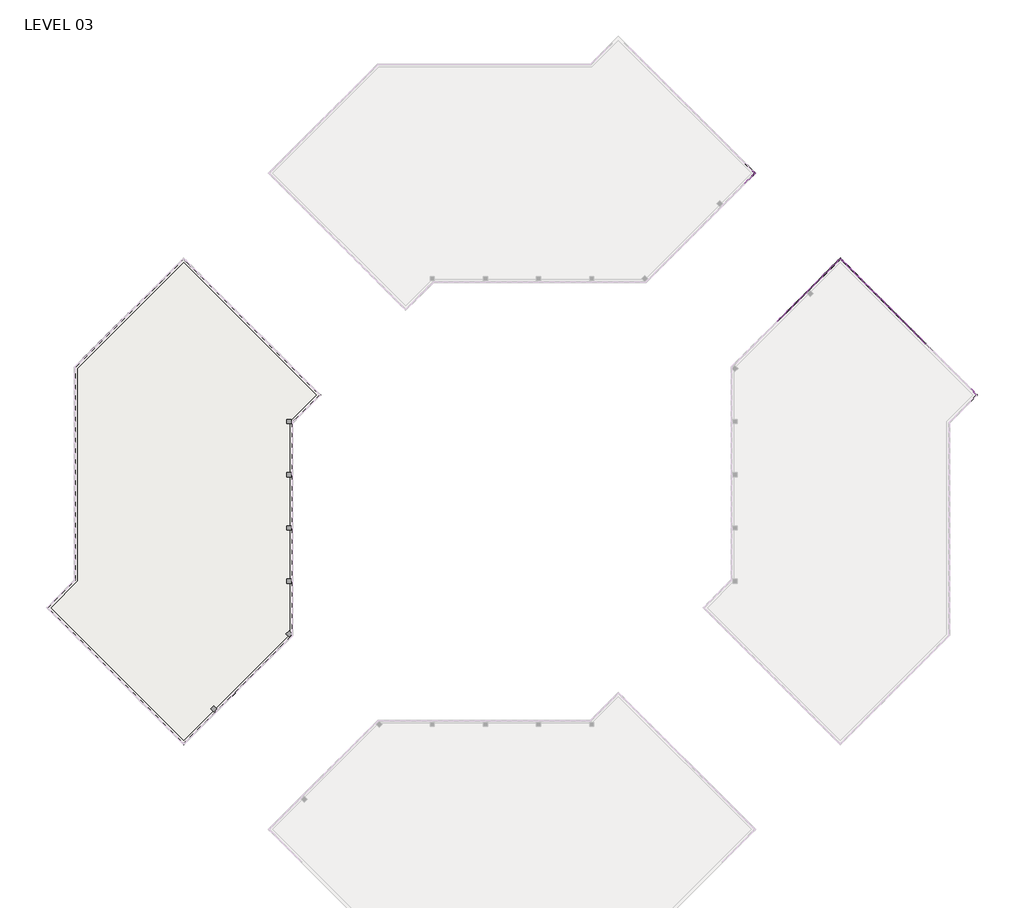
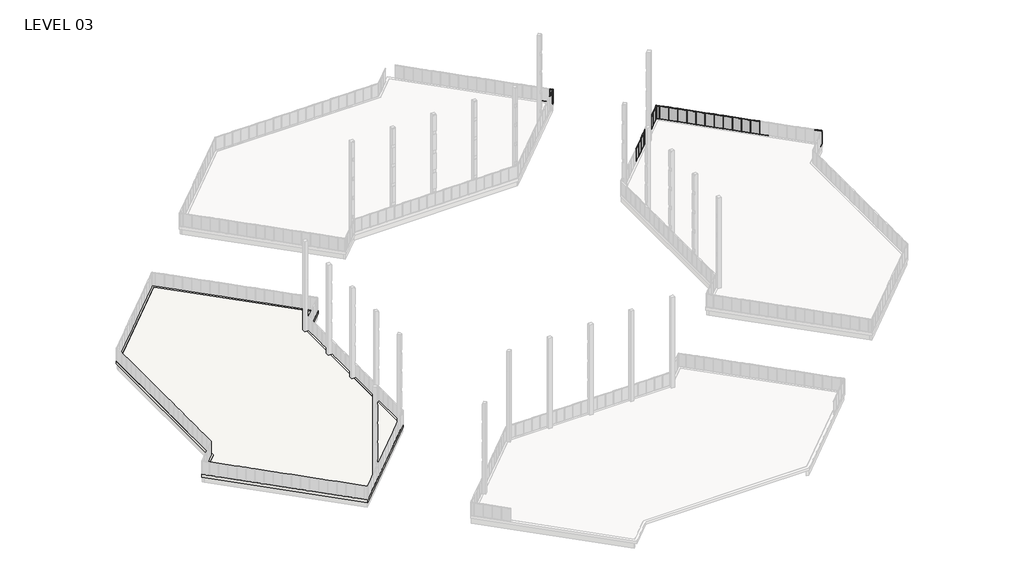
# One storey, part 17 of 18: 79 members, 23 plates, 2 slabs, 2 walls.
"""IFC4 building model written with IfcOpenShell, lengths in millimetres."""

from ifc_helpers import new_model, si_unit, frame, origin, place, context, project, spatial, polyline, outline, extrude, faceted_brep, transform, mapped, element, save
from components import member_5247f267, member_e44af9ab, member_800970d4, member_25b26a38, member_c23f844a, member_53409b32, member_ed9c17d6, member_0b71a88d, plate_6d527a83, plate_67294edd, plate_aaac5d3d, plate_50b9cd61, plate_048e4634, plate_e0fd5134, plate_62af1d3c, plate_dca6a18a

model = new_model("IFC4")

# Units and contexts
model_context = context("Model", 3, world=origin())
ifc_project = project(units=[si_unit("LENGTHUNIT", "METRE", prefix="MILLI")], contexts=[model_context])

# Site, building, storey
site = spatial("IfcSite", under=ifc_project)
building = spatial("IfcBuilding", under=site)
storey = spatial("IfcBuildingStorey", under=building, Name="LEVEL 03", Elevation=8280.4)

# Members
placement = place(None, origin())
member_shape = member_5247f267(model_context)
element("IfcMember", 1, ObjectType="Rectangular Mullion : 2\" x 4.5\" rectangular", at=placement, inside=storey, context=model_context, shape_type="MappedRepresentation", body=[
    mapped(member_shape, transform((64227.3404937, 104942.2679469, 8280.4), x_axis=(0.0, 0.0, -1.0), y_axis=(0.7071067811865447, 0.7071067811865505, 0.0), z_axis=(0.7071067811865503, -0.7071067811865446, 0.0))),
])
element("IfcMember", 2, ObjectType="Rectangular Mullion : 2\" x 4.5\" rectangular", at=placement, inside=storey, context=model_context, shape_type="MappedRepresentation", body=[
    mapped(member_shape, transform((64227.3404937, 104141.486663, 10871.2), x_axis=(0.0, 0.0, 1.0), y_axis=(0.7071067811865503, -0.7071067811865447, 0.0), z_axis=(0.7071067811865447, 0.7071067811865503, 0.0))),
])
member_2_shape = member_e44af9ab(model_context)
element("IfcMember", 3, ObjectType="Rectangular Mullion : 2\" x 4.5\" rectangular", at=placement, inside=storey, context=model_context, shape_type="MappedRepresentation", body=[
    mapped(member_2_shape, transform((64245.3010059, 104159.4471752, 8280.4), x_axis=(0.7071067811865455, 0.7071067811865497, 0.0), y_axis=(0.7071067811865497, -0.7071067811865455, 0.0), z_axis=(0.0, 0.0, -1.0))),
])
element("IfcMember", 4, ObjectType="Rectangular Mullion : 2\" x 4.5\" rectangular", at=placement, inside=storey, context=model_context, shape_type="MappedRepresentation", body=[
    mapped(member_2_shape, transform((64245.3010059, 104924.3074346, 8280.4), x_axis=(-0.7071067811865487, 0.7071067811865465, 0.0), y_axis=(0.7071067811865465, 0.7071067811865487, 0.0), z_axis=(0.0, 0.0, -1.0))),
])
member_3_shape = member_800970d4(model_context)
element("IfcMember", 5, ObjectType="Rectangular Mullion : 2\" x 4.5\" rectangular", at=placement, inside=storey, context=model_context, shape_type="MappedRepresentation", body=[
    mapped(member_3_shape, transform((64627.7311356, 104541.8773049, 8280.4), x_axis=(0.7071067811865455, 0.7071067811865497, 0.0), y_axis=(0.7071067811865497, -0.7071067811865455, 0.0), z_axis=(0.0, 0.0, -1.0))),
])
element("IfcMember", 6, ObjectType="Rectangular Mullion : 2\" x 4.5\" rectangular", at=placement, inside=storey, context=model_context, shape_type="MappedRepresentation", body=[
    mapped(member_3_shape, transform((64627.7311356, 104541.8773049, 10871.2), x_axis=(0.7071067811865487, -0.7071067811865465, 0.0), y_axis=(0.7071067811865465, 0.7071067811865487, 0.0), z_axis=(0.0, 0.0, 1.0))),
])
member_4_shape = member_25b26a38(model_context)
element("IfcMember", 7, ObjectType="Rectangular Mullion : 2\" x 4.5\" rectangular", at=placement, inside=storey, context=model_context, shape_type="MappedRepresentation", body=[
    mapped(member_4_shape, transform((64591.8101111, 104577.7983294, 8280.4), x_axis=(0.0, 0.0, -1.0), y_axis=(0.7071067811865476, 0.7071067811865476, 0.0), z_axis=(0.7071067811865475, -0.7071067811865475, 0.0))),
])
element("IfcMember", 8, ObjectType="Rectangular Mullion : 2\" x 4.5\" rectangular", at=placement, inside=storey, context=model_context, shape_type="MappedRepresentation", body=[
    mapped(member_4_shape, transform((64263.2615182, 104177.4076875, 8280.4), x_axis=(0.0, 0.0, -1.0), y_axis=(0.7071067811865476, -0.7071067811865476, 0.0), z_axis=(-0.7071067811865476, -0.7071067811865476, 0.0))),
])
element("IfcMember", 9, ObjectType="Rectangular Mullion : 2\" x 4.5\" rectangular", at=placement, inside=storey, context=model_context, shape_type="MappedRepresentation", body=[
    mapped(member_4_shape, transform((64591.8101111, 104505.9562804, 10871.2), x_axis=(0.0, 0.0, 1.0), y_axis=(0.7071067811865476, -0.7071067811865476, 0.0), z_axis=(0.7071067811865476, 0.7071067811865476, 0.0))),
])
element("IfcMember", 10, ObjectType="Rectangular Mullion : 2\" x 4.5\" rectangular", at=placement, inside=storey, context=model_context, shape_type="MappedRepresentation", body=[
    mapped(member_4_shape, transform((64263.2615182, 104906.3469224, 10871.2), x_axis=(0.0, 0.0, 1.0), y_axis=(0.7071067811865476, 0.7071067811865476, 0.0), z_axis=(-0.7071067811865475, 0.7071067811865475, 0.0))),
])
element("IfcMember", 11, ObjectType="Rectangular Mullion : 2\" x 4.5\" rectangular", at=placement, inside=storey, context=model_context, shape_type="MappedRepresentation", body=[
    mapped(member_shape, transform((68906.0983379, 84375.9873457, 10871.2), x_axis=(0.0, 0.0, 1.0), y_axis=(0.7071067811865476, -0.7071067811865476, 0.0), z_axis=(0.7071067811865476, 0.7071067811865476, 0.0))),
])
element("IfcMember", 12, ObjectType="Rectangular Mullion : 2\" x 4.5\" rectangular", at=placement, inside=storey, context=model_context, shape_type="MappedRepresentation", body=[
    mapped(member_shape, transform((69983.7142707, 85453.6032785, 10871.2), x_axis=(0.0, 0.0, 1.0), y_axis=(0.7071067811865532, -0.7071067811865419, 0.0), z_axis=(0.7071067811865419, 0.7071067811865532, 0.0))),
])
element("IfcMember", 13, ObjectType="Rectangular Mullion : 2\" x 4.5\" rectangular", at=placement, inside=storey, context=model_context, shape_type="MappedRepresentation", body=[
    mapped(member_shape, transform((71061.3302035, 86531.2192113, 10871.2), x_axis=(0.0, 0.0, 1.0), y_axis=(0.7071067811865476, -0.7071067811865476, 0.0), z_axis=(0.7071067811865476, 0.7071067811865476, 0.0))),
])
element("IfcMember", 14, ObjectType="Rectangular Mullion : 2\" x 4.5\" rectangular", at=placement, inside=storey, context=model_context, shape_type="MappedRepresentation", body=[
    mapped(member_shape, transform((73216.5768709, 88686.4658786, 10871.2), x_axis=(0.0, 0.0, 1.0), y_axis=(0.7071067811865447, -0.7071067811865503, 0.0), z_axis=(0.7071067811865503, 0.7071067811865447, 0.0))),
])
element("IfcMember", 15, ObjectType="Rectangular Mullion : 2\" x 4.5\" rectangular", at=placement, inside=storey, context=model_context, shape_type="MappedRepresentation", body=[
    mapped(member_shape, transform((79369.5908029, 89800.0176376, 10871.2), x_axis=(0.0, 0.0, 1.0), y_axis=(-0.7071067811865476, -0.7071067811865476, 0.0), z_axis=(0.7071067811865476, -0.7071067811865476, 0.0))),
])
element("IfcMember", 16, ObjectType="Rectangular Mullion : 2\" x 4.5\" rectangular", at=placement, inside=storey, context=model_context, shape_type="MappedRepresentation", body=[
    mapped(member_shape, transform((80447.2215374, 88722.3869031, 10871.2), x_axis=(0.0, 0.0, 1.0), y_axis=(-0.7071067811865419, -0.7071067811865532, 0.0), z_axis=(0.7071067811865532, -0.7071067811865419, 0.0))),
])
element("IfcMember", 17, ObjectType="Rectangular Mullion : 2\" x 4.5\" rectangular", at=placement, inside=storey, context=model_context, shape_type="MappedRepresentation", body=[
    mapped(member_shape, transform((82602.447272, 86567.1611686, 10871.2), x_axis=(0.0, 0.0, 1.0), y_axis=(-0.7071067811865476, -0.7071067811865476, 0.0), z_axis=(0.7071067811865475, -0.7071067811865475, 0.0))),
])
element("IfcMember", 18, ObjectType="Rectangular Mullion : 2\" x 4.5\" rectangular", at=placement, inside=storey, context=model_context, shape_type="MappedRepresentation", body=[
    mapped(member_shape, transform((83680.042272, 85489.5661686, 10871.2), x_axis=(0.0, 0.0, 1.0), y_axis=(-0.7071067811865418, -0.7071067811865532, 0.0), z_axis=(0.7071067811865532, -0.7071067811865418, 0.0))),
])
element("IfcMember", 19, ObjectType="Rectangular Mullion : 2\" x 4.5\" rectangular", at=placement, inside=storey, context=model_context, shape_type="MappedRepresentation", body=[
    mapped(member_shape, transform((84757.637272, 84411.9711686, 10871.2), x_axis=(0.0, 0.0, 1.0), y_axis=(-0.7071067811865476, -0.7071067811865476, 0.0), z_axis=(0.7071067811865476, -0.7071067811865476, 0.0))),
])
element("IfcMember", 20, ObjectType="Rectangular Mullion : 2\" x 4.5\" rectangular", at=placement, inside=storey, context=model_context, shape_type="MappedRepresentation", body=[
    mapped(member_shape, transform((85835.232272, 83334.3761686, 10871.2), x_axis=(0.0, 0.0, 1.0), y_axis=(-0.7071067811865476, -0.7071067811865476, 0.0), z_axis=(0.7071067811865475, -0.7071067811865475, 0.0))),
])
element("IfcMember", 21, ObjectType="Rectangular Mullion : 2\" x 4.5\" rectangular", at=placement, inside=storey, context=model_context, shape_type="MappedRepresentation", body=[
    mapped(member_shape, transform((72138.9535372, 87608.842545, 10871.2), x_axis=(0.0, 0.0, 1.0), y_axis=(0.7071067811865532, -0.7071067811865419, 0.0), z_axis=(0.7071067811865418, 0.7071067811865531, 0.0))),
])
element("IfcMember", 22, ObjectType="Rectangular Mullion : 2\" x 4.5\" rectangular", at=placement, inside=storey, context=model_context, shape_type="MappedRepresentation", body=[
    mapped(member_shape, transform((74294.2076054, 89764.0966131, 10871.2), x_axis=(0.0, 0.0, 1.0), y_axis=(0.7071067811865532, -0.7071067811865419, 0.0), z_axis=(0.7071067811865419, 0.7071067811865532, 0.0))),
])
element("IfcMember", 23, ObjectType="Rectangular Mullion : 2\" x 4.5\" rectangular", at=placement, inside=storey, context=model_context, shape_type="MappedRepresentation", body=[
    mapped(member_shape, transform((75371.8383399, 90841.7273477, 10871.2), x_axis=(0.0, 0.0, 1.0), y_axis=(0.7071067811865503, -0.7071067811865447, 0.0), z_axis=(0.7071067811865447, 0.7071067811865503, 0.0))),
])
element("IfcMember", 24, ObjectType="Rectangular Mullion : 2\" x 4.5\" rectangular", at=placement, inside=storey, context=model_context, shape_type="MappedRepresentation", body=[
    mapped(member_shape, transform((76449.4690745, 91919.3580822, 10871.2), x_axis=(0.0, 0.0, 1.0), y_axis=(0.7071067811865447, -0.7071067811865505, 0.0), z_axis=(0.7071067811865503, 0.7071067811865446, 0.0))),
])
element("IfcMember", 25, ObjectType="Rectangular Mullion : 2\" x 4.5\" rectangular", at=placement, inside=storey, context=model_context, shape_type="MappedRepresentation", body=[
    mapped(member_shape, transform((78291.9600684, 90877.6483722, 10871.2), x_axis=(0.0, 0.0, 1.0), y_axis=(-0.7071067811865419, -0.7071067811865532, 0.0), z_axis=(0.7071067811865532, -0.7071067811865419, 0.0))),
])
element("IfcMember", 26, ObjectType="Rectangular Mullion : 2\" x 4.5\" rectangular", at=placement, inside=storey, context=model_context, shape_type="MappedRepresentation", body=[
    mapped(member_shape, transform((81524.8344047, 87644.7740358, 10871.2), x_axis=(0.0, 0.0, 1.0), y_axis=(-0.7071067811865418, -0.7071067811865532, 0.0), z_axis=(0.7071067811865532, -0.7071067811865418, 0.0))),
])
element("IfcMember", 27, ObjectType="Rectangular Mullion : 2\" x 4.5\" rectangular", at=placement, inside=storey, context=model_context, shape_type="MappedRepresentation", body=[
    mapped(member_shape, transform((68942.0193624, 84411.9083702, 8280.4), x_axis=(0.0, 0.0, -1.0), y_axis=(0.7071067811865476, -0.7071067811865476, 0.0), z_axis=(-0.7071067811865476, -0.7071067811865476, 0.0))),
])
element("IfcMember", 28, ObjectType="Rectangular Mullion : 2\" x 4.5\" rectangular", at=placement, inside=storey, context=model_context, shape_type="MappedRepresentation", body=[
    mapped(member_shape, transform((70019.6352952, 85489.524303, 8280.4), x_axis=(0.0, 0.0, -1.0), y_axis=(0.7071067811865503, -0.7071067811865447, 0.0), z_axis=(-0.7071067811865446, -0.7071067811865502, 0.0))),
])
element("IfcMember", 29, ObjectType="Rectangular Mullion : 2\" x 4.5\" rectangular", at=placement, inside=storey, context=model_context, shape_type="MappedRepresentation", body=[
    mapped(member_shape, transform((71097.251228, 86567.1402358, 8280.4), x_axis=(0.0, 0.0, -1.0), y_axis=(0.7071067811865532, -0.7071067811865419, 0.0), z_axis=(-0.7071067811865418, -0.7071067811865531, 0.0))),
])
element("IfcMember", 30, ObjectType="Rectangular Mullion : 2\" x 4.5\" rectangular", at=placement, inside=storey, context=model_context, shape_type="MappedRepresentation", body=[
    mapped(member_shape, transform((73252.4978954, 88722.3869031, 8280.4), x_axis=(0.0, 0.0, -1.0), y_axis=(0.7071067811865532, -0.7071067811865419, 0.0), z_axis=(-0.7071067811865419, -0.7071067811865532, 0.0))),
])
element("IfcMember", 31, ObjectType="Rectangular Mullion : 2\" x 4.5\" rectangular", at=placement, inside=storey, context=model_context, shape_type="MappedRepresentation", body=[
    mapped(member_shape, transform((79405.5118274, 89764.0966131, 8280.4), x_axis=(0.0, 0.0, -1.0), y_axis=(-0.7071067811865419, -0.7071067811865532, 0.0), z_axis=(-0.7071067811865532, 0.7071067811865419, 0.0))),
])
element("IfcMember", 32, ObjectType="Rectangular Mullion : 2\" x 4.5\" rectangular", at=placement, inside=storey, context=model_context, shape_type="MappedRepresentation", body=[
    mapped(member_shape, transform((80483.1425619, 88686.4658786, 8280.4), x_axis=(0.0, 0.0, -1.0), y_axis=(-0.7071067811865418, -0.7071067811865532, 0.0), z_axis=(-0.7071067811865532, 0.7071067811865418, 0.0))),
])
element("IfcMember", 33, ObjectType="Rectangular Mullion : 2\" x 4.5\" rectangular", at=placement, inside=storey, context=model_context, shape_type="MappedRepresentation", body=[
    mapped(member_shape, transform((82638.3682965, 86531.2401441, 8280.4), x_axis=(0.0, 0.0, -1.0), y_axis=(-0.7071067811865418, -0.7071067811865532, 0.0), z_axis=(-0.7071067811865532, 0.7071067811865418, 0.0))),
])
element("IfcMember", 34, ObjectType="Rectangular Mullion : 2\" x 4.5\" rectangular", at=placement, inside=storey, context=model_context, shape_type="MappedRepresentation", body=[
    mapped(member_shape, transform((83715.9632965, 85453.6451441, 8280.4), x_axis=(0.0, 0.0, -1.0), y_axis=(-0.7071067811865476, -0.7071067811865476, 0.0), z_axis=(-0.7071067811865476, 0.7071067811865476, 0.0))),
])
element("IfcMember", 35, ObjectType="Rectangular Mullion : 2\" x 4.5\" rectangular", at=placement, inside=storey, context=model_context, shape_type="MappedRepresentation", body=[
    mapped(member_shape, transform((84793.5582965, 84376.0501441, 8280.4), x_axis=(0.0, 0.0, -1.0), y_axis=(-0.7071067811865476, -0.7071067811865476, 0.0), z_axis=(-0.7071067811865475, 0.7071067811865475, 0.0))),
])
element("IfcMember", 36, ObjectType="Rectangular Mullion : 2\" x 4.5\" rectangular", at=placement, inside=storey, context=model_context, shape_type="MappedRepresentation", body=[
    mapped(member_shape, transform((72174.8745617, 87644.7635694, 8280.4), x_axis=(0.0, 0.0, -1.0), y_axis=(0.7071067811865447, -0.7071067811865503, 0.0), z_axis=(-0.7071067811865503, -0.7071067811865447, 0.0))),
])
element("IfcMember", 37, ObjectType="Rectangular Mullion : 2\" x 4.5\" rectangular", at=placement, inside=storey, context=model_context, shape_type="MappedRepresentation", body=[
    mapped(member_shape, transform((74330.1286299, 89800.0176376, 8280.4), x_axis=(0.0, 0.0, -1.0), y_axis=(0.7071067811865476, -0.7071067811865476, 0.0), z_axis=(-0.7071067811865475, -0.7071067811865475, 0.0))),
])
element("IfcMember", 38, ObjectType="Rectangular Mullion : 2\" x 4.5\" rectangular", at=placement, inside=storey, context=model_context, shape_type="MappedRepresentation", body=[
    mapped(member_shape, transform((75407.7593644, 90877.6483722, 8280.4), x_axis=(0.0, 0.0, -1.0), y_axis=(0.7071067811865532, -0.7071067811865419, 0.0), z_axis=(-0.7071067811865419, -0.7071067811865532, 0.0))),
])
element("IfcMember", 39, ObjectType="Rectangular Mullion : 2\" x 4.5\" rectangular", at=placement, inside=storey, context=model_context, shape_type="MappedRepresentation", body=[
    mapped(member_shape, transform((78327.8810929, 90841.7273477, 8280.4), x_axis=(0.0, 0.0, -1.0), y_axis=(-0.7071067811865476, -0.7071067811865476, 0.0), z_axis=(-0.7071067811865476, 0.7071067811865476, 0.0))),
])
element("IfcMember", 40, ObjectType="Rectangular Mullion : 2\" x 4.5\" rectangular", at=placement, inside=storey, context=model_context, shape_type="MappedRepresentation", body=[
    mapped(member_shape, transform((77250.2503583, 91919.3580822, 8280.4), x_axis=(0.0, 0.0, -1.0), y_axis=(-0.7071067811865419, -0.7071067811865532, 0.0), z_axis=(-0.7071067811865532, 0.7071067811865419, 0.0))),
])
element("IfcMember", 41, ObjectType="Rectangular Mullion : 2\" x 4.5\" rectangular", at=placement, inside=storey, context=model_context, shape_type="MappedRepresentation", body=[
    mapped(member_shape, transform((81560.7554292, 87608.8530114, 8280.4), x_axis=(0.0, 0.0, -1.0), y_axis=(-0.7071067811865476, -0.7071067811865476, 0.0), z_axis=(-0.7071067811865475, 0.7071067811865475, 0.0))),
])
element("IfcMember", 42, ObjectType="Rectangular Mullion : 2\" x 4.5\" rectangular", at=placement, inside=storey, context=model_context, shape_type="MappedRepresentation", body=[
    mapped(member_2_shape, transform((67846.4429174, 83316.3319251, 8280.4), x_axis=(0.7071067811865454, 0.7071067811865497, 0.0), y_axis=(0.7071067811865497, -0.7071067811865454, 0.0), z_axis=(0.0, 0.0, -1.0))),
])
element("IfcMember", 43, ObjectType="Rectangular Mullion : 2\" x 4.5\" rectangular", at=placement, inside=storey, context=model_context, shape_type="MappedRepresentation", body=[
    mapped(member_2_shape, transform((68924.0588502, 84393.9478579, 8280.4), x_axis=(0.7071067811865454, 0.7071067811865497, 0.0), y_axis=(0.7071067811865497, -0.7071067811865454, 0.0), z_axis=(0.0, 0.0, -1.0))),
])
element("IfcMember", 44, ObjectType="Rectangular Mullion : 2\" x 4.5\" rectangular", at=placement, inside=storey, context=model_context, shape_type="MappedRepresentation", body=[
    mapped(member_2_shape, transform((70001.674783, 85471.5637907, 8280.4), x_axis=(0.7071067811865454, 0.7071067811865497, 0.0), y_axis=(0.7071067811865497, -0.7071067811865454, 0.0), z_axis=(0.0, 0.0, -1.0))),
])
element("IfcMember", 45, ObjectType="Rectangular Mullion : 2\" x 4.5\" rectangular", at=placement, inside=storey, context=model_context, shape_type="MappedRepresentation", body=[
    mapped(member_2_shape, transform((71079.2907158, 86549.1797235, 8280.4), x_axis=(0.7071067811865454, 0.7071067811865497, 0.0), y_axis=(0.7071067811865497, -0.7071067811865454, 0.0), z_axis=(0.0, 0.0, -1.0))),
])
element("IfcMember", 46, ObjectType="Rectangular Mullion : 2\" x 4.5\" rectangular", at=placement, inside=storey, context=model_context, shape_type="MappedRepresentation", body=[
    mapped(member_2_shape, transform((73234.5373831, 88704.4263909, 8280.4), x_axis=(0.7071067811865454, 0.7071067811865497, 0.0), y_axis=(0.7071067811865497, -0.7071067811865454, 0.0), z_axis=(0.0, 0.0, -1.0))),
])
element("IfcMember", 47, ObjectType="Rectangular Mullion : 2\" x 4.5\" rectangular", at=placement, inside=storey, context=model_context, shape_type="MappedRepresentation", body=[
    mapped(member_2_shape, transform((79387.5513152, 89782.0571254, 8280.4), x_axis=(0.7071067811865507, -0.7071067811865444, 0.0), y_axis=(-0.7071067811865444, -0.7071067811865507, 0.0), z_axis=(0.0, 0.0, -1.0))),
])
element("IfcMember", 48, ObjectType="Rectangular Mullion : 2\" x 4.5\" rectangular", at=placement, inside=storey, context=model_context, shape_type="MappedRepresentation", body=[
    mapped(member_2_shape, transform((80465.1820497, 88704.4263909, 8280.4), x_axis=(0.7071067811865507, -0.7071067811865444, 0.0), y_axis=(-0.7071067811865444, -0.7071067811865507, 0.0), z_axis=(0.0, 0.0, -1.0))),
])
element("IfcMember", 49, ObjectType="Rectangular Mullion : 2\" x 4.5\" rectangular", at=placement, inside=storey, context=model_context, shape_type="MappedRepresentation", body=[
    mapped(member_2_shape, transform((82620.4077842, 86549.2006563, 8280.4), x_axis=(0.7071067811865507, -0.7071067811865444, 0.0), y_axis=(-0.7071067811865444, -0.7071067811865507, 0.0), z_axis=(0.0, 0.0, -1.0))),
])
element("IfcMember", 50, ObjectType="Rectangular Mullion : 2\" x 4.5\" rectangular", at=placement, inside=storey, context=model_context, shape_type="MappedRepresentation", body=[
    mapped(member_2_shape, transform((83698.0027842, 85471.6056563, 8280.4), x_axis=(0.7071067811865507, -0.7071067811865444, 0.0), y_axis=(-0.7071067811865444, -0.7071067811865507, 0.0), z_axis=(0.0, 0.0, -1.0))),
])
element("IfcMember", 51, ObjectType="Rectangular Mullion : 2\" x 4.5\" rectangular", at=placement, inside=storey, context=model_context, shape_type="MappedRepresentation", body=[
    mapped(member_2_shape, transform((84775.5977842, 84394.0106563, 8280.4), x_axis=(0.7071067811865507, -0.7071067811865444, 0.0), y_axis=(-0.7071067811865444, -0.7071067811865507, 0.0), z_axis=(0.0, 0.0, -1.0))),
])
element("IfcMember", 52, ObjectType="Rectangular Mullion : 2\" x 4.5\" rectangular", at=placement, inside=storey, context=model_context, shape_type="MappedRepresentation", body=[
    mapped(member_2_shape, transform((85853.1927842, 83316.4156563, 8280.4), x_axis=(0.7071067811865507, -0.7071067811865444, 0.0), y_axis=(-0.7071067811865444, -0.7071067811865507, 0.0), z_axis=(0.0, 0.0, -1.0))),
])
element("IfcMember", 53, ObjectType="Rectangular Mullion : 2\" x 4.5\" rectangular", at=placement, inside=storey, context=model_context, shape_type="MappedRepresentation", body=[
    mapped(member_2_shape, transform((88002.431194, 81167.1772465, 8280.4), x_axis=(0.7071067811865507, -0.7071067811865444, 0.0), y_axis=(-0.7071067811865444, -0.7071067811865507, 0.0), z_axis=(0.0, 0.0, -1.0))),
])
element("IfcMember", 54, ObjectType="Rectangular Mullion : 2\" x 4.5\" rectangular", at=placement, inside=storey, context=model_context, shape_type="MappedRepresentation", body=[
    mapped(member_2_shape, transform((89074.0746038, 80095.5338367, 8280.4), x_axis=(0.7071067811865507, -0.7071067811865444, 0.0), y_axis=(-0.7071067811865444, -0.7071067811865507, 0.0), z_axis=(0.0, 0.0, -1.0))),
])
element("IfcMember", 55, ObjectType="Rectangular Mullion : 2\" x 4.5\" rectangular", at=placement, inside=storey, context=model_context, shape_type="MappedRepresentation", body=[
    mapped(member_2_shape, transform((72156.9140495, 87626.8030572, 8280.4), x_axis=(0.7071067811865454, 0.7071067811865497, 0.0), y_axis=(0.7071067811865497, -0.7071067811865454, 0.0), z_axis=(0.0, 0.0, -1.0))),
])
element("IfcMember", 56, ObjectType="Rectangular Mullion : 2\" x 4.5\" rectangular", at=placement, inside=storey, context=model_context, shape_type="MappedRepresentation", body=[
    mapped(member_2_shape, transform((74312.1681176, 89782.0571254, 8280.4), x_axis=(0.7071067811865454, 0.7071067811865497, 0.0), y_axis=(0.7071067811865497, -0.7071067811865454, 0.0), z_axis=(0.0, 0.0, -1.0))),
])
element("IfcMember", 57, ObjectType="Rectangular Mullion : 2\" x 4.5\" rectangular", at=placement, inside=storey, context=model_context, shape_type="MappedRepresentation", body=[
    mapped(member_2_shape, transform((75389.7988522, 90859.6878599, 8280.4), x_axis=(0.7071067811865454, 0.7071067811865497, 0.0), y_axis=(0.7071067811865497, -0.7071067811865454, 0.0), z_axis=(0.0, 0.0, -1.0))),
])
element("IfcMember", 58, ObjectType="Rectangular Mullion : 2\" x 4.5\" rectangular", at=placement, inside=storey, context=model_context, shape_type="MappedRepresentation", body=[
    mapped(member_2_shape, transform((76467.4295867, 91937.3185944, 8280.4), x_axis=(0.7071067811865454, 0.7071067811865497, 0.0), y_axis=(0.7071067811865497, -0.7071067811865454, 0.0), z_axis=(0.0, 0.0, -1.0))),
])
element("IfcMember", 59, ObjectType="Rectangular Mullion : 2\" x 4.5\" rectangular", at=placement, inside=storey, context=model_context, shape_type="MappedRepresentation", body=[
    mapped(member_2_shape, transform((78309.9205806, 90859.6878599, 8280.4), x_axis=(0.7071067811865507, -0.7071067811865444, 0.0), y_axis=(-0.7071067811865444, -0.7071067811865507, 0.0), z_axis=(0.0, 0.0, -1.0))),
])
element("IfcMember", 60, ObjectType="Rectangular Mullion : 2\" x 4.5\" rectangular", at=placement, inside=storey, context=model_context, shape_type="MappedRepresentation", body=[
    mapped(member_2_shape, transform((77232.2898461, 91937.3185944, 8280.4), x_axis=(0.7071067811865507, -0.7071067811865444, 0.0), y_axis=(-0.7071067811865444, -0.7071067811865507, 0.0), z_axis=(0.0, 0.0, -1.0))),
])
element("IfcMember", 61, ObjectType="Rectangular Mullion : 2\" x 4.5\" rectangular", at=placement, inside=storey, context=model_context, shape_type="MappedRepresentation", body=[
    mapped(member_2_shape, transform((81542.794917, 87626.8135236, 8280.4), x_axis=(0.7071067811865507, -0.7071067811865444, 0.0), y_axis=(-0.7071067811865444, -0.7071067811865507, 0.0), z_axis=(0.0, 0.0, -1.0))),
])
element("IfcMember", 62, ObjectType="Rectangular Mullion : 2\" x 4.5\" rectangular", at=placement, inside=storey, context=model_context, shape_type="MappedRepresentation", body=[
    mapped(member_2_shape, transform((86927.8119891, 82241.7964514, 8280.4), x_axis=(0.7071067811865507, -0.7071067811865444, 0.0), y_axis=(-0.7071067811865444, -0.7071067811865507, 0.0), z_axis=(0.0, 0.0, -1.0))),
])
element("IfcMember", 63, ObjectType="Rectangular Mullion : 2\" x 4.5\" rectangular", at=placement, inside=storey, context=model_context, shape_type="MappedRepresentation", body=[
    mapped(member_3_shape, transform((76849.8597164, 92319.7487241, 8280.4), x_axis=(0.7071067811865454, 0.7071067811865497, 0.0), y_axis=(0.7071067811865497, -0.7071067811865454, 0.0), z_axis=(0.0, 0.0, -1.0))),
])
element("IfcMember", 64, ObjectType="Rectangular Mullion : 2\" x 4.5\" rectangular", at=placement, inside=storey, context=model_context, shape_type="MappedRepresentation", body=[
    mapped(member_3_shape, transform((96411.640852, 72757.9675885, 8280.4), x_axis=(0.7071067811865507, -0.7071067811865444, 0.0), y_axis=(-0.7071067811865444, -0.7071067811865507, 0.0), z_axis=(0.0, 0.0, -1.0))),
])
element("IfcMember", 65, ObjectType="Rectangular Mullion : 2\" x 4.5\" rectangular", at=placement, inside=storey, context=model_context, shape_type="MappedRepresentation", body=[
    mapped(member_3_shape, transform((76849.8597164, 92319.7487241, 10871.2), x_axis=(-0.7071067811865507, 0.7071067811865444, 0.0), y_axis=(-0.7071067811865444, -0.7071067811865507, 0.0), z_axis=(0.0, 0.0, 1.0))),
])
element("IfcMember", 66, ObjectType="Rectangular Mullion : 2\" x 4.5\" rectangular", at=placement, inside=storey, context=model_context, shape_type="MappedRepresentation", body=[
    mapped(member_3_shape, transform((96411.640852, 72757.9675885, 10871.2), x_axis=(0.7071067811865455, 0.7071067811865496, 0.0), y_axis=(-0.7071067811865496, 0.7071067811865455, 0.0), z_axis=(0.0, 0.0, 1.0))),
])
member_5_shape = member_c23f844a(model_context)
element("IfcMember", 67, ObjectType="Rectangular Mullion : 2\" x 4.5\" rectangular", at=placement, inside=storey, context=model_context, shape_type="MappedRepresentation", body=[
    mapped(member_5_shape, transform((89056.1140916, 80113.494349, 10871.2), x_axis=(0.0, 0.0, 1.0), y_axis=(-0.7071067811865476, -0.7071067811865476, 0.0), z_axis=(0.7071067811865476, -0.7071067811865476, 0.0))),
])
element("IfcMember", 68, ObjectType="Rectangular Mullion : 2\" x 4.5\" rectangular", at=placement, inside=storey, context=model_context, shape_type="MappedRepresentation", body=[
    mapped(member_5_shape, transform((88020.3917063, 81149.2167343, 8280.4), x_axis=(0.0, 0.0, -1.0), y_axis=(-0.7071067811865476, -0.7071067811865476, 0.0), z_axis=(-0.7071067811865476, 0.7071067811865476, 0.0))),
])
element("IfcMember", 69, ObjectType="Rectangular Mullion : 2\" x 4.5\" rectangular", at=placement, inside=storey, context=model_context, shape_type="MappedRepresentation", body=[
    mapped(member_5_shape, transform((89092.035116, 80077.5733245, 8280.4), x_axis=(0.0, 0.0, -1.0), y_axis=(-0.7071067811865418, -0.7071067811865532, 0.0), z_axis=(-0.7071067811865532, 0.7071067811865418, 0.0))),
])
element("IfcMember", 70, ObjectType="Rectangular Mullion : 2\" x 4.5\" rectangular", at=placement, inside=storey, context=model_context, shape_type="MappedRepresentation", body=[
    mapped(member_4_shape, transform((76813.9386919, 92283.8276997, 10871.2), x_axis=(0.0, 0.0, 1.0), y_axis=(0.7071067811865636, -0.7071067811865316, 0.0), z_axis=(0.7071067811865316, 0.7071067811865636, 0.0))),
])
element("IfcMember", 71, ObjectType="Rectangular Mullion : 2\" x 4.5\" rectangular", at=placement, inside=storey, context=model_context, shape_type="MappedRepresentation", body=[
    mapped(member_4_shape, transform((77214.3293339, 91955.2791067, 10871.2), x_axis=(0.0, 0.0, 1.0), y_axis=(-0.7071067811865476, -0.7071067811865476, 0.0), z_axis=(0.7071067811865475, -0.7071067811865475, 0.0))),
])
element("IfcMember", 72, ObjectType="Rectangular Mullion : 2\" x 4.5\" rectangular", at=placement, inside=storey, context=model_context, shape_type="MappedRepresentation", body=[
    mapped(member_4_shape, transform((76885.7807409, 92283.8276997, 8280.4), x_axis=(0.0, 0.0, -1.0), y_axis=(-0.7071067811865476, -0.7071067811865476, 0.0), z_axis=(-0.7071067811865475, 0.7071067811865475, 0.0))),
])
element("IfcMember", 73, ObjectType="Rectangular Mullion : 2\" x 4.5\" rectangular", at=placement, inside=storey, context=model_context, shape_type="MappedRepresentation", body=[
    mapped(member_4_shape, transform((76485.3900989, 91955.2791067, 8280.4), x_axis=(0.0, 0.0, -1.0), y_axis=(0.7071067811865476, -0.7071067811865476, 0.0), z_axis=(-0.7071067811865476, -0.7071067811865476, 0.0))),
])
member_6_shape = member_53409b32(model_context)
element("IfcMember", 74, ObjectType="Rectangular Mullion : 2\" x 4.5\" rectangular", at=placement, inside=storey, context=model_context, shape_type="MappedRepresentation", body=[
    mapped(member_6_shape, transform((96375.7198275, 72793.888613, 10871.2), x_axis=(0.0, 0.0, 1.0), y_axis=(-0.7071067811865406, -0.7071067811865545, 0.0), z_axis=(0.7071067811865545, -0.7071067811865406, 0.0))),
])
member_7_shape = member_ed9c17d6(model_context)
element("IfcMember", 75, ObjectType="Rectangular Mullion : 2\" x 4.5\" rectangular", at=placement, inside=storey, context=model_context, shape_type="MappedRepresentation", body=[
    mapped(member_7_shape, transform((87984.4706818, 81185.1377588, 10871.2), x_axis=(0.0, 0.0, 1.0), y_axis=(-0.7071067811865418, -0.7071067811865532, 0.0), z_axis=(0.7071067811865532, -0.7071067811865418, 0.0))),
])
element("IfcMember", 76, ObjectType="Rectangular Mullion : 2\" x 4.5\" rectangular", at=placement, inside=storey, context=model_context, shape_type="MappedRepresentation", body=[
    mapped(member_7_shape, transform((86909.8514769, 82259.7569637, 10871.2), x_axis=(0.0, 0.0, 1.0), y_axis=(-0.7071067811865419, -0.7071067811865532, 0.0), z_axis=(0.7071067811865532, -0.7071067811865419, 0.0))),
])
element("IfcMember", 77, ObjectType="Rectangular Mullion : 2\" x 4.5\" rectangular", at=placement, inside=storey, context=model_context, shape_type="MappedRepresentation", body=[
    mapped(member_7_shape, transform((85871.1532965, 83298.4551441, 8280.4), x_axis=(0.0, 0.0, -1.0), y_axis=(-0.7071067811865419, -0.7071067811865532, 0.0), z_axis=(-0.7071067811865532, 0.7071067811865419, 0.0))),
])
element("IfcMember", 78, ObjectType="Rectangular Mullion : 2\" x 4.5\" rectangular", at=placement, inside=storey, context=model_context, shape_type="MappedRepresentation", body=[
    mapped(member_7_shape, transform((86945.7725014, 82223.8359392, 8280.4), x_axis=(0.0, 0.0, -1.0), y_axis=(-0.7071067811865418, -0.7071067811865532, 0.0), z_axis=(-0.7071067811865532, 0.7071067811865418, 0.0))),
])
member_8_shape = member_0b71a88d(model_context)
element("IfcMember", 79, ObjectType="Rectangular Mullion : 2\" x 4.5\" rectangular", at=placement, inside=storey, context=model_context, shape_type="MappedRepresentation", body=[
    mapped(member_8_shape, transform((96375.7198275, 72722.046564, 8280.4), x_axis=(0.0, 0.0, -1.0), y_axis=(-0.7071067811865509, 0.7071067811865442, 0.0), z_axis=(0.7071067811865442, 0.7071067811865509, 0.0))),
])

# Plates
plate_shape = plate_6d527a83(model_context)
element("IfcPlate", 80, ObjectType="System Panel : 1/4\" Glass", at=placement, inside=storey, context=model_context, shape_type="MappedRepresentation", body=[
    mapped(plate_shape, transform((64427.5358147, 104742.0726259, 8331.2), x_axis=(-0.7071067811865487, 0.7071067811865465, 0.0), y_axis=(-0.7071067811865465, -0.7071067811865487, 0.0), z_axis=(0.0, 0.0, 1.0))),
])
element("IfcPlate", 81, ObjectType="System Panel : 1/4\" Glass", at=placement, inside=storey, context=model_context, shape_type="MappedRepresentation", body=[
    mapped(plate_shape, transform((64427.5358147, 104341.681984, 8331.2), x_axis=(0.7071067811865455, 0.7071067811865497, 0.0), y_axis=(-0.7071067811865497, 0.7071067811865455, 0.0), z_axis=(0.0, 0.0, 1.0))),
])
plate_2_shape = plate_67294edd(model_context)
element("IfcPlate", 82, ObjectType="System Panel : 1/4\" Glass", at=placement, inside=storey, context=model_context, shape_type="MappedRepresentation", body=[
    mapped(plate_2_shape, transform((73773.3527504, 89243.2417581, 8331.2), x_axis=(0.7071067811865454, 0.7071067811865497, 0.0), y_axis=(-0.7071067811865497, 0.7071067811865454, 0.0), z_axis=(0.0, 0.0, 1.0))),
])
element("IfcPlate", 83, ObjectType="System Panel : 1/4\" Glass", at=placement, inside=storey, context=model_context, shape_type="MappedRepresentation", body=[
    mapped(plate_2_shape, transform((79926.3666824, 89243.2417581, 8331.2), x_axis=(0.7071067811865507, -0.7071067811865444, 0.0), y_axis=(0.7071067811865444, 0.7071067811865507, 0.0), z_axis=(0.0, 0.0, 1.0))),
])
element("IfcPlate", 84, ObjectType="System Panel : 1/4\" Glass", at=placement, inside=storey, context=model_context, shape_type="MappedRepresentation", body=[
    mapped(plate_2_shape, transform((74850.9834849, 90320.8724927, 8331.2), x_axis=(0.7071067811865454, 0.7071067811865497, 0.0), y_axis=(-0.7071067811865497, 0.7071067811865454, 0.0), z_axis=(0.0, 0.0, 1.0))),
])
element("IfcPlate", 85, ObjectType="System Panel : 1/4\" Glass", at=placement, inside=storey, context=model_context, shape_type="MappedRepresentation", body=[
    mapped(plate_2_shape, transform((75928.6142194, 91398.5032272, 8331.2), x_axis=(0.7071067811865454, 0.7071067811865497, 0.0), y_axis=(-0.7071067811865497, 0.7071067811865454, 0.0), z_axis=(0.0, 0.0, 1.0))),
])
element("IfcPlate", 86, ObjectType="System Panel : 1/4\" Glass", at=placement, inside=storey, context=model_context, shape_type="MappedRepresentation", body=[
    mapped(plate_2_shape, transform((78848.7359479, 90320.8724927, 8331.2), x_axis=(0.7071067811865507, -0.7071067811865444, 0.0), y_axis=(0.7071067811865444, 0.7071067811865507, 0.0), z_axis=(0.0, 0.0, 1.0))),
])
element("IfcPlate", 87, ObjectType="System Panel : 1/4\" Glass", at=placement, inside=storey, context=model_context, shape_type="MappedRepresentation", body=[
    mapped(plate_2_shape, transform((77771.1052134, 91398.5032272, 8331.2), x_axis=(0.7071067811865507, -0.7071067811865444, 0.0), y_axis=(0.7071067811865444, 0.7071067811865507, 0.0), z_axis=(0.0, 0.0, 1.0))),
])
plate_3_shape = plate_aaac5d3d(model_context)
element("IfcPlate", 88, ObjectType="System Panel : 1/4\" Glass", at=placement, inside=storey, context=model_context, shape_type="MappedRepresentation", body=[
    mapped(plate_3_shape, transform((68385.2508838, 83855.1398915, 8331.2), x_axis=(0.7071067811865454, 0.7071067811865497, 0.0), y_axis=(-0.7071067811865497, 0.7071067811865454, 0.0), z_axis=(0.0, 0.0, 1.0))),
])
element("IfcPlate", 89, ObjectType="System Panel : 1/4\" Glass", at=placement, inside=storey, context=model_context, shape_type="MappedRepresentation", body=[
    mapped(plate_3_shape, transform((69462.8668166, 84932.7558243, 8331.2), x_axis=(0.7071067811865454, 0.7071067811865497, 0.0), y_axis=(-0.7071067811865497, 0.7071067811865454, 0.0), z_axis=(0.0, 0.0, 1.0))),
])
element("IfcPlate", 90, ObjectType="System Panel : 1/4\" Glass", at=placement, inside=storey, context=model_context, shape_type="MappedRepresentation", body=[
    mapped(plate_3_shape, transform((70540.4827494, 86010.3717571, 8331.2), x_axis=(0.7071067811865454, 0.7071067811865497, 0.0), y_axis=(-0.7071067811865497, 0.7071067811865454, 0.0), z_axis=(0.0, 0.0, 1.0))),
])
plate_4_shape = plate_50b9cd61(model_context)
element("IfcPlate", 91, ObjectType="System Panel : 1/4\" Glass", at=placement, inside=storey, context=model_context, shape_type="MappedRepresentation", body=[
    mapped(plate_4_shape, transform((88538.2528989, 80631.3555416, 8331.2), x_axis=(0.7071067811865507, -0.7071067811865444, 0.0), y_axis=(0.7071067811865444, 0.7071067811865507, 0.0), z_axis=(0.0, 0.0, 1.0))),
])
plate_5_shape = plate_048e4634(model_context)
element("IfcPlate", 92, ObjectType="System Panel : 1/4\" Glass", at=placement, inside=storey, context=model_context, shape_type="MappedRepresentation", body=[
    mapped(plate_5_shape, transform((83159.2052842, 86010.4031563, 8331.2), x_axis=(0.7071067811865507, -0.7071067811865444, 0.0), y_axis=(0.7071067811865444, 0.7071067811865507, 0.0), z_axis=(0.0, 0.0, 1.0))),
])
element("IfcPlate", 93, ObjectType="System Panel : 1/4\" Glass", at=placement, inside=storey, context=model_context, shape_type="MappedRepresentation", body=[
    mapped(plate_5_shape, transform((84236.8002842, 84932.8081563, 8331.2), x_axis=(0.7071067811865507, -0.7071067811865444, 0.0), y_axis=(0.7071067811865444, 0.7071067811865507, 0.0), z_axis=(0.0, 0.0, 1.0))),
])
element("IfcPlate", 94, ObjectType="System Panel : 1/4\" Glass", at=placement, inside=storey, context=model_context, shape_type="MappedRepresentation", body=[
    mapped(plate_5_shape, transform((85314.3952842, 83855.2131563, 8331.2), x_axis=(0.7071067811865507, -0.7071067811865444, 0.0), y_axis=(0.7071067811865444, 0.7071067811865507, 0.0), z_axis=(0.0, 0.0, 1.0))),
])
plate_6_shape = plate_e0fd5134(model_context)
element("IfcPlate", 95, ObjectType="System Panel : 1/4\" Glass", at=placement, inside=storey, context=model_context, shape_type="MappedRepresentation", body=[
    mapped(plate_6_shape, transform((71618.1023826, 87087.9913904, 8331.2), x_axis=(0.7071067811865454, 0.7071067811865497, 0.0), y_axis=(-0.7071067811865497, 0.7071067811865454, 0.0), z_axis=(0.0, 0.0, 1.0))),
])
element("IfcPlate", 96, ObjectType="System Panel : 1/4\" Glass", at=placement, inside=storey, context=model_context, shape_type="MappedRepresentation", body=[
    mapped(plate_6_shape, transform((72695.7257163, 88165.614724, 8331.2), x_axis=(0.7071067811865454, 0.7071067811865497, 0.0), y_axis=(-0.7071067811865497, 0.7071067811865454, 0.0), z_axis=(0.0, 0.0, 1.0))),
])
element("IfcPlate", 97, ObjectType="System Panel : 1/4\" Glass", at=placement, inside=storey, context=model_context, shape_type="MappedRepresentation", body=[
    mapped(plate_shape, transform((77050.0550374, 92119.5534032, 8331.2), x_axis=(0.7071067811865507, -0.7071067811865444, 0.0), y_axis=(0.7071067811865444, 0.7071067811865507, 0.0), z_axis=(0.0, 0.0, 1.0))),
])
element("IfcPlate", 98, ObjectType="System Panel : 1/4\" Glass", at=placement, inside=storey, context=model_context, shape_type="MappedRepresentation", body=[
    mapped(plate_shape, transform((76649.6643954, 92119.5534032, 8331.2), x_axis=(0.7071067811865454, 0.7071067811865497, 0.0), y_axis=(-0.7071067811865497, 0.7071067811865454, 0.0), z_axis=(0.0, 0.0, 1.0))),
])
plate_7_shape = plate_62af1d3c(model_context)
element("IfcPlate", 99, ObjectType="System Panel : 1/4\" Glass", at=placement, inside=storey, context=model_context, shape_type="MappedRepresentation", body=[
    mapped(plate_7_shape, transform((81003.9884833, 88165.6199572, 8331.2), x_axis=(0.7071067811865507, -0.7071067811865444, 0.0), y_axis=(0.7071067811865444, 0.7071067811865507, 0.0), z_axis=(0.0, 0.0, 1.0))),
])
element("IfcPlate", 100, ObjectType="System Panel : 1/4\" Glass", at=placement, inside=storey, context=model_context, shape_type="MappedRepresentation", body=[
    mapped(plate_7_shape, transform((82081.6013506, 87088.00709, 8331.2), x_axis=(0.7071067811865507, -0.7071067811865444, 0.0), y_axis=(0.7071067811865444, 0.7071067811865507, 0.0), z_axis=(0.0, 0.0, 1.0))),
])
plate_8_shape = plate_dca6a18a(model_context)
element("IfcPlate", 101, ObjectType="System Panel : 1/4\" Glass", at=placement, inside=storey, context=model_context, shape_type="MappedRepresentation", body=[
    mapped(plate_8_shape, transform((86390.5023867, 82779.1060539, 8331.2), x_axis=(0.7071067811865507, -0.7071067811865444, 0.0), y_axis=(0.7071067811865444, 0.7071067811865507, 0.0), z_axis=(0.0, 0.0, 1.0))),
])
element("IfcPlate", 102, ObjectType="System Panel : 1/4\" Glass", at=placement, inside=storey, context=model_context, shape_type="MappedRepresentation", body=[
    mapped(plate_8_shape, transform((87465.1215916, 81704.486849, 8331.2), x_axis=(0.7071067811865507, -0.7071067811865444, 0.0), y_axis=(0.7071067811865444, 0.7071067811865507, 0.0), z_axis=(0.0, 0.0, 1.0))),
])

# Slabs
element("IfcSlab", 103, ObjectType="1'10\" Concrete Slab", at=placement, inside=storey, context=model_context, shape_type="SweptSolid", body=[
    extrude(outline(polyline([(-17197.9597164, 22635.3641478), (-36840.5631571, 42277.9675885), (-32841.1847164, 46277.3460292), (-32841.1847164, 76757.3460292), (-17197.9597164, 92400.5710292), (2444.6437243, 72757.9675885), (-1554.7347164, 68758.5891478), (-1554.7347164, 38278.5891478), (-17197.9597164, 22635.3641478)]), holes=[polyline([(-2011.9347164, 68947.9675885), (1798.0652836, 72757.9675885), (-17197.9597164, 91753.9925885), (-32383.9847164, 76567.9675885), (-32383.9847164, 46087.9675885), (-36193.9847164, 42277.9675885), (-17197.9597164, 23281.9425885), (-2011.9347164, 38467.9675885), (-2011.9347164, 68947.9675885)])]), frame((0.0, 0.0, 7721.6), z_axis=(0.0, 0.0, 1.0), x_axis=(1.0, 0.0, 0.0)), (0.0, 0.0, 1.0), 558.8),
])
element("IfcSlab", 104, ObjectType="2\" Concrete Slab", at=placement, inside=storey, context=model_context, shape_type="SweptSolid", body=[
    extrude(outline(polyline([(-2011.9347164, 38467.9675885), (-17197.9597164, 23281.9425885), (-36193.9847164, 42277.9675885), (-32383.9847164, 46087.9675885), (-32383.9847164, 76567.9675885), (-17197.9597164, 91753.9925885), (1798.0652836, 72757.9675885), (-2011.9347164, 68947.9675885), (-2011.9347164, 38467.9675885)])), frame((0.0, 0.0, 8229.6), z_axis=(0.0, 0.0, 1.0), x_axis=(1.0, 0.0, 0.0)), (0.0, 0.0, 1.0), 50.8),
])

# Walls
element("IfcWall", 105, ObjectType="01-CONCRETE-12", at=placement, inside=storey, context=model_context, shape_type="Brep", body=[
    faceted_brep([(96133.2529123, 72973.4937354, 6731.0), (76849.8597164, 92256.8869313, 6731.0), (76849.8597164, 92256.8869313, 7721.6), (96133.2529123, 72973.4937354, 7721.6), (95917.7267654, 72757.9675885, 6731.0), (95917.7267654, 72757.9675885, 7721.6), (92346.8477899, 76328.846564, 7721.6), (91737.2477899, 76938.446564, 7721.6), (86988.6307409, 81687.063613, 7721.6), (86379.0307409, 82296.663613, 7721.6), (81600.6557409, 87075.038613, 7721.6), (80991.0557409, 87684.638613, 7721.6), (76849.8597164, 91825.8346375, 7721.6), (76634.3335695, 92041.3607844, 7721.6), (76634.3335695, 92041.3607844, 6731.0), (76849.8597164, 91825.8346375, 6731.0), (80991.0557409, 87684.638613, 6731.0), (81600.6557409, 87075.038613, 6731.0), (86379.0307409, 82296.663613, 6731.0), (86988.6307409, 81687.063613, 6731.0), (91737.2477899, 76938.446564, 6731.0), (92346.8477899, 76328.846564, 6731.0)], [[[0, 1, 2, 3]], [[4, 5, 6, 7, 8, 9, 10, 11, 12, 13, 14, 15, 16, 17, 18, 19, 20, 21]], [[1, 0, 4, 21, 20, 19, 18, 17, 16, 15, 14]], [[3, 2, 13, 12, 11, 10, 9, 8, 7, 6, 5]], [[0, 3, 5, 4]], [[2, 1, 14, 13]]]),
])
element("IfcWall", 106, ObjectType="01-CONCRETE-12", at=placement, inside=storey, context=model_context, shape_type="Brep", body=[
    faceted_brep([(76634.3335695, 92041.3607844, 6731.0), (61613.0347164, 77020.0619313, 6731.0), (61613.0347164, 77020.0619313, 7721.6), (76634.3335695, 92041.3607844, 7721.6), (76849.8597164, 91825.8346375, 6731.0), (76849.8597164, 91825.8346375, 7721.6), (67320.6886919, 82296.663613, 7721.6), (66711.0886919, 81687.063613, 7721.6), (61962.4716429, 76938.446564, 7721.6), (61613.0347164, 76589.0096375, 7721.6), (61613.0347164, 76589.0096375, 6731.0), (61962.4716429, 76938.446564, 6731.0), (66711.0886919, 81687.063613, 6731.0), (67320.6886919, 82296.663613, 6731.0)], [[[0, 1, 2, 3]], [[4, 5, 6, 7, 8, 9, 10, 11, 12, 13]], [[1, 0, 4, 13, 12, 11, 10]], [[3, 2, 9, 8, 7, 6, 5]], [[0, 3, 5, 4]], [[2, 1, 10, 9]]]),
])

save(model, "model.ifc")
